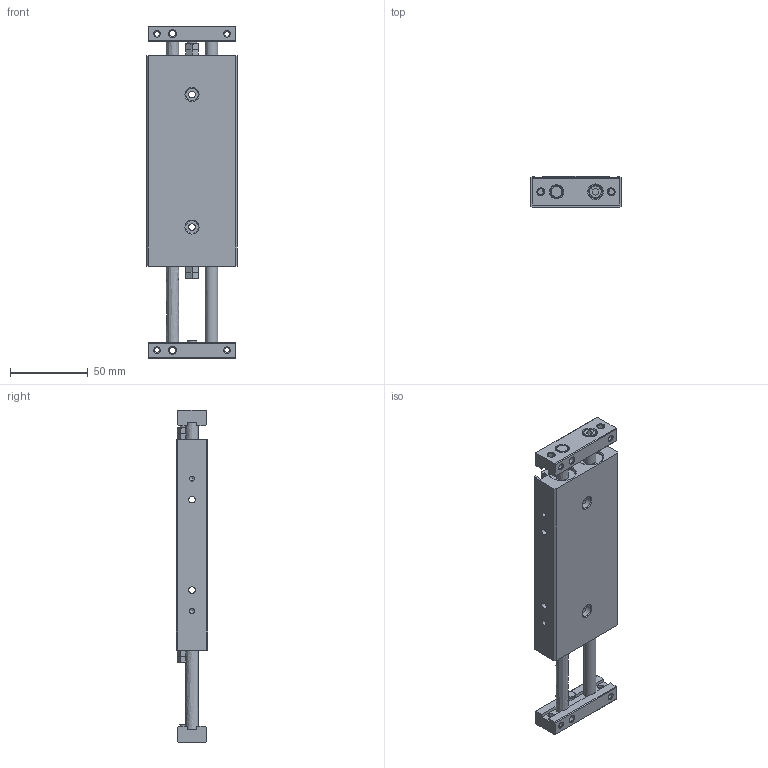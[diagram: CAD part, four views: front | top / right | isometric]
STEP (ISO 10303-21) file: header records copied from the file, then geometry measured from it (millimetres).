
FILE_DESCRIPTION((''),'2;1');
FILE_NAME('I:\3D電子目錄\氣缸\STX\STX\STX16\STX16x40.stp','2007-10-01T17:17:33',('Administrator'),(''),'Autodesk Inventor 11','Autodesk Inventor 11','');
FILE_SCHEMA(('AUTOMOTIVE_DESIGN { 1 0 10303 214 1 1 1 1 }'));
Length unit declared in the file: millimetre
Products named in the file (1): STX16
Bounding box: 58 x 20 x 213 mm (x, y, z)
Volume: 166267.4 mm3; surface area: 42479.3 mm2
Topology: 1 solids, 1 shells, 267 faces, 674 edges, 423 vertices
Faces by surface type: plane 130, cone 76, bspline 36, cylinder 21, torus 4
Full cylindrical faces by diameter (mm): 3.242 x2, 6 x2, 8 x6, 8.2 x2, 8.5 x2, 9 x2, 17 x2, 18 x2
Entity records: 8177 total; most frequent: CARTESIAN_POINT 2631, ORIENTED_EDGE 1088, DIRECTION 1066, EDGE_CURVE 544, EDGE_LOOP 414, AXIS2_PLACEMENT_3D 403, VERTEX_POINT 380, FACE_OUTER_BOUND 266
